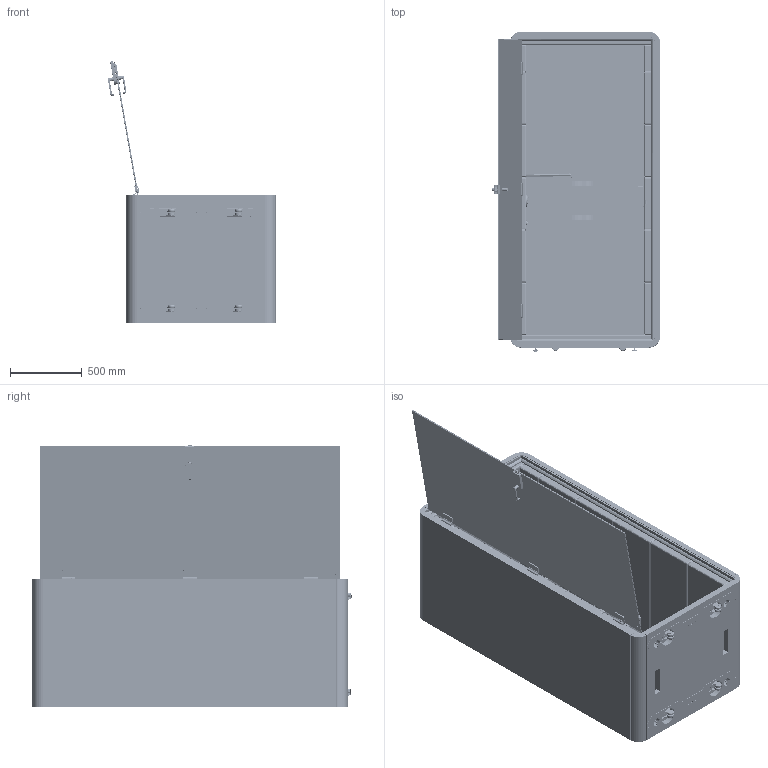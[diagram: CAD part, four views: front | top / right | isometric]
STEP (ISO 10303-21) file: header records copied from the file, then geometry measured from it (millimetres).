
FILE_DESCRIPTION(/* description */ (''),/* implementation_level */ '2;1');
FILE_NAME(/* name */ 'C:\Nextcloud\02_biblioteki_cad\mikomax\Zmiany w modelach 05.05\Eksporty-28-lipca\HUS-BX-218\INCH\HUS-BX-218-inch-open.stp',/* time_stamp */ '2022-07-29T09:07:42+02:00',/* author */ ('alane'),/* organization */ (''),/* preprocessor_version */ 'ST-DEVELOPER v18.1',/* originating_system */ 'Autodesk Inventor 2022',/* authorisation */ '');
FILE_SCHEMA (('CONFIG_CONTROL_DESIGN'));
Products named in the file (167): HUS-BX-218-DWG-mm; HUS-BX-218-DWG-mm32; HUS-BX-218-DWG-mm33; HUS-BX-218-DWG-mm34; HUS-BX-218-DWG-mm35; HUS-BX-218-DWG-mm36; HUS-BX-218-DWG-mm37; HUS-BX-218-DWG-mm38; HUS-BX-218-DWG-mm39; HUS-BX-218-DWG-mm40; HUS-BX-218-DWG-mm43; HUS-BX-218-DWG-mm45; HUS-BX-218-DWG-mm47; HUS-BX-218-DWG-mm48; HUS-BX-218-DWG-mm49; HUS-BX-218-DWG-mm50; HUS-BX-218-DWG-mm55; HUS-BX-218-DWG-mm56; HUS-BX-218-DWG-mm60; HUS-BX-218-DWG-mm61; HUS-BX-218-DWG-mm64; HUS-BX-218-DWG-mm68; HUS-BX-218-DWG-mm69; HUS-BX-218-DWG-mm70; HUS-BX-218-DWG-mm71; HUS-BX-218-DWG-mm72; HUS-BX-218-DWG-mm73; HUS-BX-218-DWG-mm74; HUS-BX-218-DWG-mm75; HUS-BX-218-DWG-mm100; HUS-BX-218-DWG-mm101; HUS-BX-218-DWG-mm102; HUS-BX-218-DWG-mm103; HUS-BX-218-DWG-mm110; HUS-BX-218-DWG-mm124; HUS-BX-218-DWG-mm125; HUS-BX-218-DWG-mm141; HUS-BX-218-DWG-mm142; HUS-BX-218-DWG-mm183; HUS-BX-218-DWG-mm204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
Assembly tree (195 placements, depth 4):
  HUS-BX-218-DWG-mm
    HUS-BX-218-DWG-mm32
    HUS-BX-218-DWG-mm33
    HUS-BX-218-DWG-mm34
    HUS-BX-218-DWG-mm35
    HUS-BX-218-DWG-mm36
    HUS-BX-218-DWG-mm37
    HUS-BX-218-DWG-mm38
    HUS-BX-218-DWG-mm39
    HUS-BX-218-DWG-mm40
    HUS-BX-218-DWG-mm43
    HUS-BX-218-DWG-mm45
    HUS-BX-218-DWG-mm47
    HUS-BX-218-DWG-mm48
    HUS-BX-218-DWG-mm49
    HUS-BX-218-DWG-mm50
    HUS-BX-218-DWG-mm55
    HUS-BX-218-DWG-mm56
    HUS-BX-218-DWG-mm60
    HUS-BX-218-DWG-mm61
    HUS-BX-218-DWG-mm64
    HUS-BX-218-DWG-mm68
    HUS-BX-218-DWG-mm69
    HUS-BX-218-DWG-mm70
    HUS-BX-218-DWG-mm71
    HUS-BX-218-DWG-mm72
    HUS-BX-218-DWG-mm73
    HUS-BX-218-DWG-mm74
    HUS-BX-218-DWG-mm75
    HUS-BX-218-DWG-mm100
    HUS-BX-218-DWG-mm101
    HUS-BX-218-DWG-mm102
    HUS-BX-218-DWG-mm103
    HUS-BX-218-DWG-mm110
    HUS-BX-218-DWG-mm124
    HUS-BX-218-DWG-mm125
    HUS-BX-218-DWG-mm141
    HUS-BX-218-DWG-mm142
    HUS-BX-218-DWG-mm183
    HUS-BX-218-DWG-mm204
    HUS-BX-218-DWG-mm205
    HUS-BX-218-DWG-mm206
    HUS-BX-218-DWG-mm207
    HUS-BX-218-DWG-mm208
    HUS-BX-218-DWG-mm209
    HUS-BX-218-DWG-mm210
    HUS-BX-218-DWG-mm211
    HUS-BX-218-DWG-mm213
    HUS-BX-218-DWG-mm226
    HUS-BX-218-DWG-mm227
    HUS-BX-218-DWG-mm229
    HUS-BX-218-DWG-mm230
    HUS-BX-218-DWG-mm233
    HUS-BX-218-DWG-mm234
    HUS-BX-218-DWG-mm238
    HUS-BX-218-DWG-mm239
    HUS-BX-218-DWG-mm240
    HUS-BX-218-DWG-mm241
    HUS-BX-218-DWG-mm242
    HUS-BX-218-DWG-mm243
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Bounding box: 1176.89 x 2243.1 x 1835.78 mm (x, y, z)
Volume: 578530445.8 mm3; surface area: 44591838.9 mm2
Topology: 237 solids, 237 shells, 10836 faces, 27896 edges, 18078 vertices
Faces by surface type: plane 5740, cylinder 3318, bspline 819, cone 510, torus 306, sphere 143
Full cylindrical faces by diameter (mm): 0.3 x12, 1.104 x1, 2 x172, 2.343 x12, 2.5 x2, 3 x5, 3.2 x5, 3.242 x2, 3.3 x3, 3.5 x2, 4 x16, 4.134 x9, 4.5 x16, 4.917 x2, 5 x45, 5.134 x3, 5.4 x9, 5.5 x32, 6 x7, 6.647 x43, 7 x17, 8 x70, 8.376 x8, 8.4 x8, 9 x11, 10 x51, 10.5 x4, 11 x16, 12 x11, 13 x8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
Entity records: 350928 total; most frequent: CARTESIAN_POINT 102045, ORIENTED_EDGE 50754, DIRECTION 48375, EDGE_CURVE 25377, VERTEX_POINT 16567, LINE 16231, VECTOR 16231, AXIS2_PLACEMENT_3D 16072
